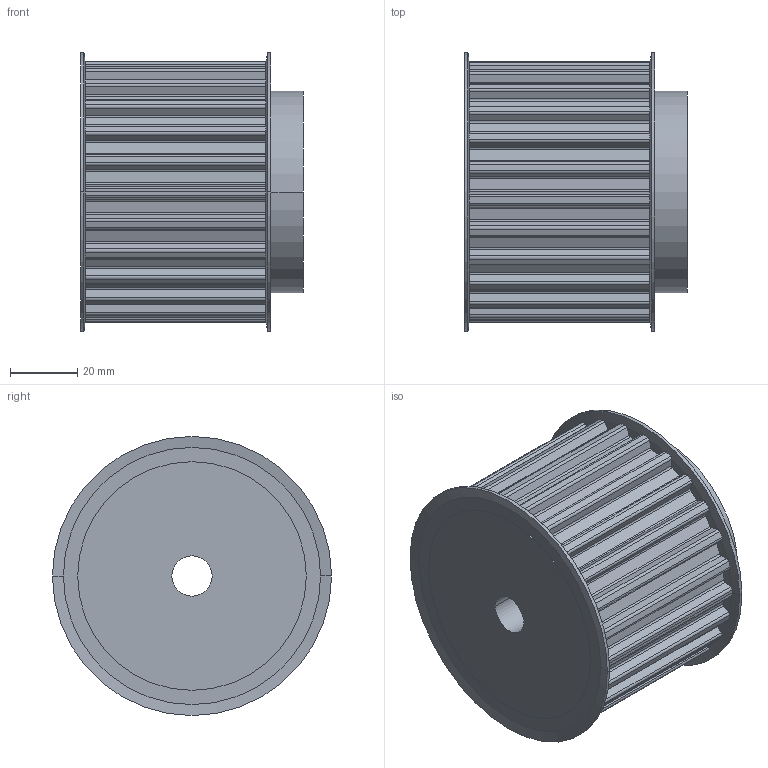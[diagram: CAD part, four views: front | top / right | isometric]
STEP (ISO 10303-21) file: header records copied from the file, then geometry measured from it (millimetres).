
FILE_DESCRIPTION( ( '' ), '1' );
FILE_NAME( 'C:/Users/Stangenbergd/Documents/CAD_Step/1/16452500.stp', '2021-10-19T09:01:22', ( '' ), ( '' ), ' ', ' ', ' ' );
FILE_SCHEMA( ( 'CONFIG_CONTROL_DESIGN' ) );
Length unit declared in the file: millimetre
Products named in the file (1): 1
Bounding box: 66.31 x 83 x 83 mm (x, y, z)
Volume: 262983.9 mm3; surface area: 36471.7 mm2
Topology: 1 solids, 1 shells, 326 faces, 855 edges, 534 vertices
Faces by surface type: plane 180, cylinder 138, cone 8
Entity records: 10107 total; most frequent: DIRECTION 1893, CARTESIAN_POINT 1716, ORIENTED_EDGE 1710, EDGE_CURVE 855, AXIS2_PLACEMENT_3D 711, VERTEX_POINT 534, LINE 471, VECTOR 471
